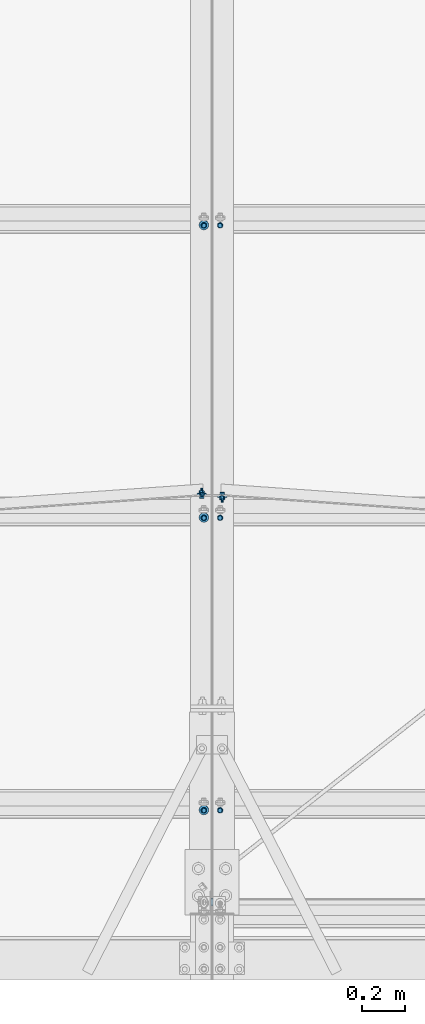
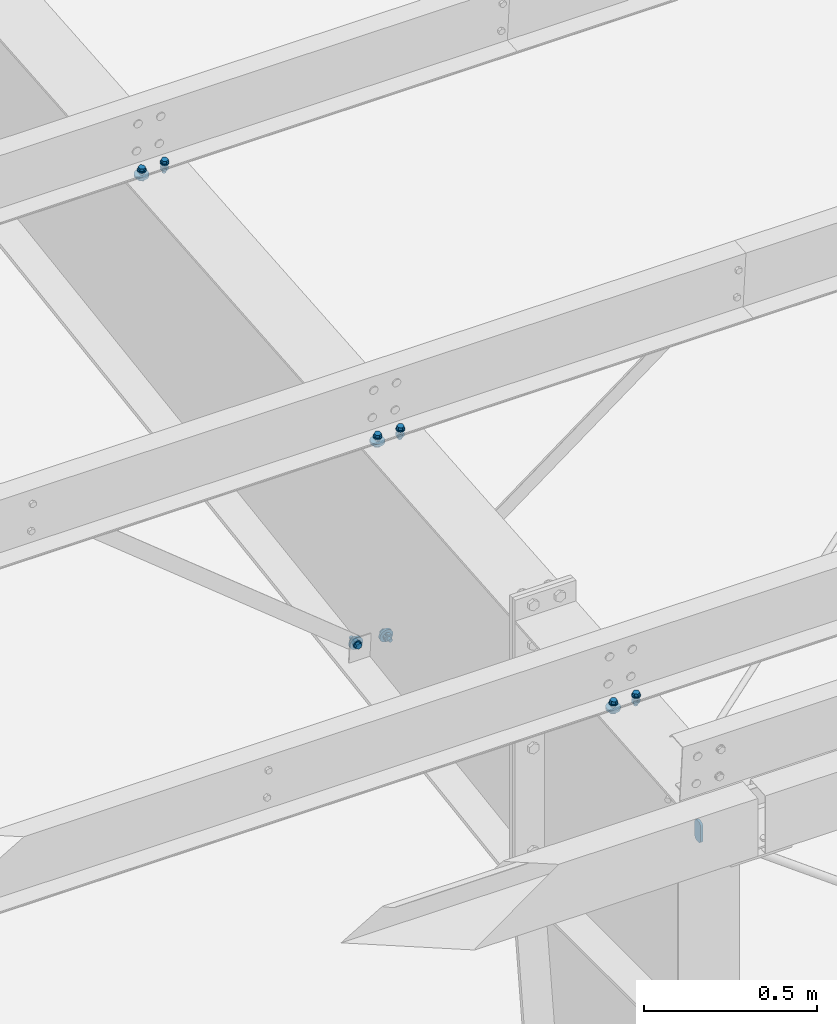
# One storey, part 122 of 185: 11 mechanical fasteners, 7 elements without a shape of their own.
"""IFC2X3 building model written with IfcOpenShell, lengths in millimetres."""

from ifc_helpers import new_model, si_unit, frame, frame_2d, origin_with_axes, origin_2d_with_axis, place, context, subcontext, project, spatial, polyline, circle_curve, parameter, trimmed, segment, composite_curve, circle, outline, extrude, source, transform, mapped, material, type_object, element, aggregate, save


model = new_model("IFC2X3")

# Units and contexts
model_context = context("Model", 3, precision=1e-05, world=origin_with_axes())
body_context = subcontext(model_context, "Body", "Model", "MODEL_VIEW")
ifc_project = project(units=[si_unit("LENGTHUNIT", "METRE", prefix="MILLI"), si_unit("AREAUNIT", "SQUARE_METRE"), si_unit("VOLUMEUNIT", "CUBIC_METRE"), si_unit("MASSUNIT", "GRAM", prefix="KILO"), si_unit("TIMEUNIT", "SECOND"), si_unit("PLANEANGLEUNIT", "RADIAN"), si_unit("SOLIDANGLEUNIT", "STERADIAN"), si_unit("THERMODYNAMICTEMPERATUREUNIT", "DEGREE_CELSIUS"), si_unit("LUMINOUSINTENSITYUNIT", "LUMEN")], contexts=[model_context])

# Site, building, storey
site_placement = place(None, origin_with_axes())
site = spatial("IfcSite", under=ifc_project, at=site_placement, Name="Undefined", CompositionType="ELEMENT")
building_placement = place(site_placement, origin_with_axes())
building = spatial("IfcBuilding", under=site, at=building_placement, Name="Undefined", CompositionType="ELEMENT")
storey_placement = place(building_placement, origin_with_axes())
storey = spatial("IfcBuildingStorey", under=building, at=storey_placement, Name="Undefined", CompositionType="ELEMENT", Elevation=0.0)

# Assembly, mechanical fastener
assembly_1_placement = place(storey_placement, origin_with_axes())
assembly_1 = element("IfcElementAssembly", 1, at=assembly_1_placement, inside=storey, Name="Steel Assembly", AssemblyPlace="NOTDEFINED", PredefinedType="RIGID_FRAME")
ifc_material_1 = material(Name="Undefined")
discrete_accessory_type = type_object("IfcDiscreteAccessoryType", Name="Bolt assembly")
shared_shape_1 = source(origin_with_axes(), body_context, "Body", "SweptSolid", [
    extrude(circle(Radius=7.14374971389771, at=origin_2d_with_axis()), frame((0.0, -1.59000001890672, 0.0), z_axis=(0.0, 1.0, 0.0), x_axis=(1.0, 0.0, 0.0)), (0.0, 0.0, 1.0), 1.7),
    extrude(outline(polyline([(10.9985221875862, 0.0), (5.4992610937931, 9.52499961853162), (-5.4992610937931, 9.52499961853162), (-10.9985221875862, 0.0), (-5.4992610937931, -9.52499961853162), (5.4992610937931, -9.52499961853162), (10.9985221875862, 0.0)])), frame((0.0, -15.0837496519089, 0.0), z_axis=(0.0, 1.0, 0.0), x_axis=(1.0, 0.0, 0.0)), (0.0, 0.0, 1.0), 9.5),
    extrude(circle(Radius=6.34999990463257, at=origin_2d_with_axis()), frame((0.0, -5.5587500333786, 0.0), z_axis=(0.0, 1.0, 0.0), x_axis=(1.0, 0.0, 0.0)), (0.0, 0.0, 1.0), 38.1),
    extrude(circle(Radius=13.4937496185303, at=origin_2d_with_axis()), frame((0.0, -5.5587500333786, 0.0), z_axis=(0.0, 1.0, 0.0), x_axis=(1.0, 0.0, 0.0)), (0.0, 0.0, 1.0), 4.0),
    extrude(circle(Radius=22.2250003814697, at=origin_2d_with_axis()), frame((0.0, 0.0, 0.0), z_axis=(0.0, 1.0, 0.0), x_axis=(1.0, 0.0, 0.0)), (0.0, 0.0, 1.0), 7.9),
    extrude(outline(polyline([(12.8316099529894, 0.0), (6.4158049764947, 11.1125001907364), (-6.4158049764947, 11.1125001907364), (-12.8316099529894, 0.0), (-6.4158049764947, -11.1125001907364), (6.4158049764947, -11.1125001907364), (12.8316099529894, 0.0)])), frame((0.0, 7.93750000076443, 0.0), z_axis=(0.0, 1.0, 0.0), x_axis=(1.0, 0.0, 0.0)), (0.0, 0.0, 1.0), 12.3),
])
mechanical_fastener_1_placement = place(assembly_1_placement, frame((7286.59838849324, 2264.37498076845, 5283.35510462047), z_axis=(0.641182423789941, 0.0637281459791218, -0.764737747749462), x_axis=(0.767388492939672, -0.053247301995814, 0.638967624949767)))
mechanical_fastener_1 = element("IfcMechanicalFastener", 2, at=mechanical_fastener_1_placement, type_object=discrete_accessory_type, material=ifc_material_1, Name="Bolt assembly", NominalDiameter=12.6999998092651, NominalLength=38.0999984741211, context=body_context, shape_type="MappedRepresentation", body=[
    mapped(shared_shape_1, transform((0.0, 0.0, 0.0))),
])
aggregate(assembly_1, [mechanical_fastener_1])

assembly_2_placement = place(storey_placement, origin_with_axes())
assembly_2 = element("IfcElementAssembly", 3, at=assembly_2_placement, inside=storey, Name="Steel Assembly", AssemblyPlace="NOTDEFINED", PredefinedType="RIGID_FRAME")
shared_shape_2 = source(origin_with_axes(), body_context, "Body", "SweptSolid", [
    extrude(circle(Radius=7.14374971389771, at=origin_2d_with_axis()), frame((0.0, 0.0, 0.0), z_axis=(0.0, 1.0, 0.0), x_axis=(1.0, 0.0, 0.0)), (0.0, 0.0, 1.0), 1.7),
    extrude(outline(polyline([(10.9985221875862, 0.0), (5.4992610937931, 9.52499961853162), (-5.4992610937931, 9.52499961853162), (-10.9985221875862, 0.0), (-5.4992610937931, -9.52499961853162), (5.4992610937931, -9.52499961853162), (10.9985221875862, 0.0)])), frame((0.0, -13.4937496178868, 0.0), z_axis=(0.0, 1.0, 0.0), x_axis=(1.0, 0.0, 0.0)), (0.0, 0.0, 1.0), 9.5),
    extrude(circle(Radius=6.34999990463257, at=origin_2d_with_axis()), frame((0.0, -3.96874999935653, 0.0), z_axis=(0.0, 1.0, 0.0), x_axis=(1.0, 0.0, 0.0)), (0.0, 0.0, 1.0), 38.1),
    extrude(circle(Radius=13.4937496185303, at=origin_2d_with_axis()), frame((0.0, -3.96874999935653, 0.0), z_axis=(0.0, 1.0, 0.0), x_axis=(1.0, 0.0, 0.0)), (0.0, 0.0, 1.0), 4.0),
    extrude(circle(Radius=22.2250003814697, at=origin_2d_with_axis()), frame((0.0, 1.5900000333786, 0.0), z_axis=(0.0, 1.0, 0.0), x_axis=(1.0, 0.0, 0.0)), (0.0, 0.0, 1.0), 7.9),
    extrude(outline(polyline([(12.8316099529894, 0.0), (6.4158049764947, 11.1125001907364), (-6.4158049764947, 11.1125001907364), (-12.8316099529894, 0.0), (-6.4158049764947, -11.1125001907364), (6.4158049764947, -11.1125001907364), (12.8316099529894, 0.0)])), frame((0.0, 9.5275000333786, 0.0), z_axis=(0.0, 1.0, 0.0), x_axis=(1.0, 0.0, 0.0)), (0.0, 0.0, 1.0), 12.3),
])
mechanical_fastener_2_placement = place(assembly_2_placement, frame((7191.40161150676, 2264.37498076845, 5283.35510462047), z_axis=(-0.641182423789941, 0.0637281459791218, -0.764737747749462), x_axis=(-0.767388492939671, -0.0532473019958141, 0.638967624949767)))
mechanical_fastener_2 = element("IfcMechanicalFastener", 4, at=mechanical_fastener_2_placement, type_object=discrete_accessory_type, material=ifc_material_1, Name="Bolt assembly", NominalDiameter=12.6999998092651, NominalLength=38.0999984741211, context=body_context, shape_type="MappedRepresentation", body=[
    mapped(shared_shape_2, transform((0.0, 0.0, 0.0))),
])
aggregate(assembly_2, [mechanical_fastener_2])

# Assembly, mechanical fasteners
assembly_3_placement = place(storey_placement, origin_with_axes())
assembly_3 = element("IfcElementAssembly", 5, at=assembly_3_placement, inside=storey, Name="Steel Assembly", AssemblyPlace="NOTDEFINED", PredefinedType="RIGID_FRAME")
ifc_material_2 = material(Name="7990")
shared_shape_3 = source(origin_with_axes(), body_context, "Body", "SweptSolid", [
    extrude(circle(Radius=7.14374971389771, at=origin_2d_with_axis()), frame((0.0, -3.41600000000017, 0.0), z_axis=(0.0, 1.0, 0.0), x_axis=(1.0, 0.0, 0.0)), (0.0, 0.0, 1.0), 3.5),
    extrude(circle(Radius=11.4299998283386, at=origin_2d_with_axis()), frame((0.0, 0.0, 0.0), z_axis=(0.0, 1.0, 0.0), x_axis=(1.0, 0.0, 0.0)), (0.0, 0.0, 1.0), 4.2),
    extrude(outline(polyline([(12.171698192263, 0.0), (6.08584909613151, 10.5409998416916), (-6.08584909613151, 10.5409998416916), (-12.171698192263, 0.0), (-6.08584909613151, -10.5409998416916), (6.08584909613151, -10.5409998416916), (12.171698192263, 0.0)])), frame((0.0, 4.1909999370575, 0.0), z_axis=(0.0, 1.0, 0.0), x_axis=(1.0, 0.0, 0.0)), (0.0, 0.0, 1.0), 8.4),
])
mechanical_fastener_3_placement = place(assembly_3_placement, frame((7192.169, 2264.4282280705, 5282.71613699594), z_axis=(0.921635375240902, 0.0322263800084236, -0.386716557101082), x_axis=(-0.388056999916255, 0.0765376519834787, -0.9184518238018)))
mechanical_fastener_3 = element("IfcMechanicalFastener", 6, at=mechanical_fastener_3_placement, type_object=discrete_accessory_type, material=ifc_material_2, Name="Bolt assembly", NominalDiameter=12.6999998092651, NominalLength=38.0999984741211, context=body_context, shape_type="MappedRepresentation", body=[
    mapped(shared_shape_3, transform((0.0, 0.0, 0.0))),
])
shared_shape_4 = source(origin_with_axes(), body_context, "Body", "SweptSolid", [
    extrude(circle(Radius=7.14374971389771, at=origin_2d_with_axis()), frame((0.0, 0.0, 0.0), z_axis=(0.0, 1.0, 0.0), x_axis=(1.0, 0.0, 0.0)), (0.0, 0.0, 1.0), 3.5),
    extrude(circle(Radius=11.4299998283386, at=origin_2d_with_axis()), frame((0.0, 3.41600000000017, 0.0), z_axis=(0.0, 1.0, 0.0), x_axis=(1.0, 0.0, 0.0)), (0.0, 0.0, 1.0), 4.2),
    extrude(outline(polyline([(12.171698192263, 0.0), (6.08584909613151, 10.5409998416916), (-6.08584909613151, 10.5409998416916), (-12.171698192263, 0.0), (-6.08584909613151, -10.5409998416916), (6.08584909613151, -10.5409998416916), (12.171698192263, 0.0)])), frame((0.0, 7.60699993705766, 0.0), z_axis=(0.0, 1.0, 0.0), x_axis=(1.0, 0.0, 0.0)), (0.0, 0.0, 1.0), 8.4),
])
mechanical_fastener_4_placement = place(assembly_3_placement, frame((7285.831, 2264.4282280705, 5282.71613699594), z_axis=(-0.921635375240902, 0.0322263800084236, -0.386716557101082), x_axis=(0.388056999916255, 0.0765376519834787, -0.9184518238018)))
mechanical_fastener_4 = element("IfcMechanicalFastener", 7, at=mechanical_fastener_4_placement, type_object=discrete_accessory_type, material=ifc_material_2, Name="Bolt assembly", NominalDiameter=12.6999998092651, NominalLength=38.0999984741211, context=body_context, shape_type="MappedRepresentation", body=[
    mapped(shared_shape_4, transform((0.0, 0.0, 0.0))),
])
aggregate(assembly_3, [mechanical_fastener_4, mechanical_fastener_3])

# Assembly, mechanical fastener
assembly_4_placement = place(storey_placement, origin_with_axes())
assembly_4 = element("IfcElementAssembly", 8, at=assembly_4_placement, inside=storey, Name="Steel Assembly", AssemblyPlace="NOTDEFINED", PredefinedType="RIGID_FRAME")
shared_shape_5 = source(origin_with_axes(), body_context, "Body", "SweptSolid", [
    extrude(outline(composite_curve([segment(polyline([(-23.8125, 17.4624996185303), (23.8125, 17.4624996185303)]), True, "CONTINUOUS"), segment(trimmed(circle_curve(frame_2d((23.8125, 4.76249980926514), x_axis=(0.0, 1.0)), 12.7), [parameter(0.0)], [parameter(4.71238898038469)], False, "PARAMETER"), True, "CONTINUOUS"), segment(polyline([(36.5124998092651, 4.76249980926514), (36.5124998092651, -4.76249980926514)]), True, "CONTINUOUS"), segment(trimmed(circle_curve(frame_2d((23.8125, -4.76249980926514), x_axis=(1.0, 0.0)), 12.7), [parameter(0.0)], [parameter(4.71238898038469)], False, "PARAMETER"), True, "CONTINUOUS"), segment(polyline([(23.8125, -17.4624996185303), (-23.8125, -17.4624996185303)]), True, "CONTINUOUS"), segment(trimmed(circle_curve(frame_2d((-23.8125, -4.76249980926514), x_axis=(0.0, -1.0)), 12.7), [parameter(0.0)], [parameter(4.71238898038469)], False, "PARAMETER"), True, "CONTINUOUS"), segment(polyline([(-36.5124998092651, -4.76249980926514), (-36.5124998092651, 4.76249980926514)]), True, "CONTINUOUS"), segment(trimmed(circle_curve(frame_2d((-23.8125, 4.76249980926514), x_axis=(-1.0, 0.0)), 12.7), [parameter(0.0)], [parameter(4.71238898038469)], False, "PARAMETER"), True, "DISCONTINUOUS")], self_intersect=False)), frame((0.0, -3.96874999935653, 0.0), z_axis=(0.0, 1.0, 0.0), x_axis=(1.0, 0.0, 0.0)), (0.0, 0.0, 1.0), 8.0),
])
mechanical_fastener_5_placement = place(assembly_4_placement, frame((7239.0, 363.47399999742, 5757.77406710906), z_axis=(0.0, 1.0, 0.0), x_axis=(0.0, 0.0, -1.0)))
mechanical_fastener_5 = element("IfcMechanicalFastener", 9, at=mechanical_fastener_5_placement, type_object=discrete_accessory_type, material=ifc_material_1, Name="Bolt assembly", NominalDiameter=25.3999996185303, NominalLength=31.75, context=body_context, shape_type="MappedRepresentation", body=[
    mapped(shared_shape_5, transform((0.0, 0.0, 0.0))),
])
aggregate(assembly_4, [mechanical_fastener_5])

# Assembly, mechanical fasteners
assembly_5_placement = place(storey_placement, origin_with_axes())
assembly_5 = element("IfcElementAssembly", 10, at=assembly_5_placement, inside=storey, Name="Steel Assembly", AssemblyPlace="NOTDEFINED", PredefinedType="RIGID_FRAME")
shared_shape_6 = source(origin_with_axes(), body_context, "Body", "SweptSolid", [
    extrude(circle(Radius=7.14374971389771, at=origin_2d_with_axis()), frame((0.0, -0.1, 0.0), z_axis=(0.0, 1.0, 0.0), x_axis=(1.0, 0.0, 0.0)), (0.0, 0.0, 1.0), 8.1),
    extrude(circle(Radius=7.14374971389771, at=origin_2d_with_axis()), frame((0.0, -3.08000006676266, 0.0), z_axis=(0.0, 1.0, 0.0), x_axis=(1.0, 0.0, 0.0)), (0.0, 0.0, 1.0), 3.2),
    extrude(circle(Radius=7.14374971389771, at=origin_2d_with_axis()), frame((0.0, -3.08000006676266, 0.0), z_axis=(0.0, 1.0, 0.0), x_axis=(1.0, 0.0, 0.0)), (0.0, 0.0, 1.0), 3.2),
    extrude(outline(polyline([(10.9985221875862, 0.0), (5.4992610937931, 9.52499961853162), (-5.4992610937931, 9.52499961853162), (-10.9985221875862, 0.0), (-5.4992610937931, -9.52499961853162), (5.4992610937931, -9.52499961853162), (10.9985221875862, 0.0)])), frame((0.0, -16.6737496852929, 0.0), z_axis=(0.0, 1.0, 0.0), x_axis=(1.0, 0.0, 0.0)), (0.0, 0.0, 1.0), 9.5),
    extrude(circle(Radius=6.34999990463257, at=origin_2d_with_axis()), frame((0.0, -7.14875006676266, 0.0), z_axis=(0.0, 1.0, 0.0), x_axis=(1.0, 0.0, 0.0)), (0.0, 0.0, 1.0), 38.1),
    extrude(circle(Radius=13.4937496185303, at=origin_2d_with_axis()), frame((0.0, -7.14875006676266, 0.0), z_axis=(0.0, 1.0, 0.0), x_axis=(1.0, 0.0, 0.0)), (0.0, 0.0, 1.0), 4.0),
    extrude(circle(Radius=22.2250003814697, at=origin_2d_with_axis()), frame((0.0, 7.95019856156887, 0.0), z_axis=(0.0, 1.0, 0.0), x_axis=(1.0, 0.0, 0.0)), (0.0, 0.0, 1.0), 7.9),
    extrude(outline(polyline([(12.8316099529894, 0.0), (6.4158049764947, 11.1125001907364), (-6.4158049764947, 11.1125001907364), (-12.8316099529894, 0.0), (-6.4158049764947, -11.1125001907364), (6.4158049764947, -11.1125001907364), (12.8316099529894, 0.0)])), frame((0.0, 15.8876985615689, 0.0), z_axis=(0.0, 1.0, 0.0), x_axis=(1.0, 0.0, 0.0)), (0.0, 0.0, 1.0), 12.3),
])
mechanical_fastener_6_placement = place(assembly_5_placement, frame((7200.9, 793.549517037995, 5958.22479168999), z_axis=(1.0, 0.0, 0.0), x_axis=(0.0, -0.996545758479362, -0.0830454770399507)))
mechanical_fastener_6 = element("IfcMechanicalFastener", 11, at=mechanical_fastener_6_placement, type_object=discrete_accessory_type, material=ifc_material_1, Name="Bolt assembly", NominalDiameter=12.6999998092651, NominalLength=38.0999984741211, context=body_context, shape_type="MappedRepresentation", body=[
    mapped(shared_shape_6, transform((0.0, 0.0, 0.0))),
])
shared_shape_7 = source(origin_with_axes(), body_context, "Body", "SweptSolid", [
    extrude(circle(Radius=7.14374971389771, at=origin_2d_with_axis()), frame((0.0, -0.1, 0.0), z_axis=(0.0, 1.0, 0.0), x_axis=(1.0, 0.0, 0.0)), (0.0, 0.0, 1.0), 8.1),
    extrude(circle(Radius=7.14374971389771, at=origin_2d_with_axis()), frame((0.0, -3.08000006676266, 0.0), z_axis=(0.0, 1.0, 0.0), x_axis=(1.0, 0.0, 0.0)), (0.0, 0.0, 1.0), 3.2),
    extrude(circle(Radius=7.14374971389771, at=origin_2d_with_axis()), frame((0.0, -3.08000006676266, 0.0), z_axis=(0.0, 1.0, 0.0), x_axis=(1.0, 0.0, 0.0)), (0.0, 0.0, 1.0), 3.2),
    extrude(outline(polyline([(10.9985221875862, 0.0), (5.4992610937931, 9.52499961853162), (-5.4992610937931, 9.52499961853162), (-10.9985221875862, 0.0), (-5.4992610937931, -9.52499961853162), (5.4992610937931, -9.52499961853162), (10.9985221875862, 0.0)])), frame((0.0, -16.6737496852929, 0.0), z_axis=(0.0, 1.0, 0.0), x_axis=(1.0, 0.0, 0.0)), (0.0, 0.0, 1.0), 9.5),
    extrude(circle(Radius=6.34999990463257, at=origin_2d_with_axis()), frame((0.0, -7.14875006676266, 0.0), z_axis=(0.0, 1.0, 0.0), x_axis=(1.0, 0.0, 0.0)), (0.0, 0.0, 1.0), 38.1),
    extrude(circle(Radius=13.4937496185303, at=origin_2d_with_axis()), frame((0.0, -7.14875006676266, 0.0), z_axis=(0.0, 1.0, 0.0), x_axis=(1.0, 0.0, 0.0)), (0.0, 0.0, 1.0), 4.0),
    extrude(outline(polyline([(12.8316099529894, 0.0), (6.4158049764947, 11.1125001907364), (-6.4158049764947, 11.1125001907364), (-12.8316099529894, 0.0), (-6.4158049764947, -11.1125001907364), (6.4158049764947, -11.1125001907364), (12.8316099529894, 0.0)])), frame((0.0, 7.95019856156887, 0.0), z_axis=(0.0, 1.0, 0.0), x_axis=(1.0, 0.0, 0.0)), (0.0, 0.0, 1.0), 12.3),
])
mechanical_fastener_7_placement = place(assembly_5_placement, frame((7277.1, 793.549517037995, 5958.22479168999), z_axis=(1.0, 0.0, 0.0), x_axis=(0.0, -0.996545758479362, -0.0830454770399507)))
mechanical_fastener_7 = element("IfcMechanicalFastener", 12, at=mechanical_fastener_7_placement, type_object=discrete_accessory_type, material=ifc_material_1, Name="Bolt assembly", NominalDiameter=12.6999998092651, NominalLength=38.0999984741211, context=body_context, shape_type="MappedRepresentation", body=[
    mapped(shared_shape_7, transform((0.0, 0.0, 0.0))),
])
aggregate(assembly_5, [mechanical_fastener_6, mechanical_fastener_7])

assembly_6_placement = place(storey_placement, origin_with_axes())
assembly_6 = element("IfcElementAssembly", 13, at=assembly_6_placement, inside=storey, Name="Steel Assembly", AssemblyPlace="NOTDEFINED", PredefinedType="RIGID_FRAME")
shared_shape_8 = source(origin_with_axes(), body_context, "Body", "SweptSolid", [
    extrude(circle(Radius=7.14374971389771, at=origin_2d_with_axis()), frame((0.0, -0.0897199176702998, 0.0), z_axis=(0.0, 1.0, 0.0), x_axis=(1.0, 0.0, 0.0)), (0.0, 0.0, 1.0), 8.0),
    extrude(circle(Radius=7.14374971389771, at=origin_2d_with_axis()), frame((0.0, -3.08000006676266, 0.0), z_axis=(0.0, 1.0, 0.0), x_axis=(1.0, 0.0, 0.0)), (0.0, 0.0, 1.0), 3.2),
    extrude(circle(Radius=7.14374971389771, at=origin_2d_with_axis()), frame((0.0, -3.08000006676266, 0.0), z_axis=(0.0, 1.0, 0.0), x_axis=(1.0, 0.0, 0.0)), (0.0, 0.0, 1.0), 3.2),
    extrude(outline(polyline([(10.9985221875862, 0.0), (5.4992610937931, 9.52499961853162), (-5.4992610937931, 9.52499961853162), (-10.9985221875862, 0.0), (-5.4992610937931, -9.52499961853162), (5.4992610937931, -9.52499961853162), (10.9985221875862, 0.0)])), frame((0.0, -16.6737496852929, 0.0), z_axis=(0.0, 1.0, 0.0), x_axis=(1.0, 0.0, 0.0)), (0.0, 0.0, 1.0), 9.5),
    extrude(circle(Radius=6.34999990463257, at=origin_2d_with_axis()), frame((0.0, -7.14875006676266, 0.0), z_axis=(0.0, 1.0, 0.0), x_axis=(1.0, 0.0, 0.0)), (0.0, 0.0, 1.0), 38.1),
    extrude(circle(Radius=13.4937496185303, at=origin_2d_with_axis()), frame((0.0, -7.14875006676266, 0.0), z_axis=(0.0, 1.0, 0.0), x_axis=(1.0, 0.0, 0.0)), (0.0, 0.0, 1.0), 4.0),
    extrude(circle(Radius=22.2250003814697, at=origin_2d_with_axis()), frame((0.0, 7.88428008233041, 0.0), z_axis=(0.0, 1.0, 0.0), x_axis=(1.0, 0.0, 0.0)), (0.0, 0.0, 1.0), 7.9),
    extrude(outline(polyline([(12.8316099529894, 0.0), (6.4158049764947, 11.1125001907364), (-6.4158049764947, 11.1125001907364), (-12.8316099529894, 0.0), (-6.4158049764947, -11.1125001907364), (6.4158049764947, -11.1125001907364), (12.8316099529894, 0.0)])), frame((0.0, 15.8217800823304, 0.0), z_axis=(0.0, 1.0, 0.0), x_axis=(1.0, 0.0, 0.0)), (0.0, 0.0, 1.0), 12.3),
])
mechanical_fastener_8_placement = place(assembly_6_placement, frame((7200.9, 2160.41167902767, 6072.12997208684), z_axis=(1.0, 0.0, 0.0), x_axis=(0.0, -0.996545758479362, -0.0830454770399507)))
mechanical_fastener_8 = element("IfcMechanicalFastener", 14, at=mechanical_fastener_8_placement, type_object=discrete_accessory_type, material=ifc_material_1, Name="Bolt assembly", NominalDiameter=12.6999998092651, NominalLength=38.0999984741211, context=body_context, shape_type="MappedRepresentation", body=[
    mapped(shared_shape_8, transform((0.0, 0.0, 0.0))),
])
shared_shape_9 = source(origin_with_axes(), body_context, "Body", "SweptSolid", [
    extrude(circle(Radius=7.14374971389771, at=origin_2d_with_axis()), frame((0.0, -0.0897199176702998, 0.0), z_axis=(0.0, 1.0, 0.0), x_axis=(1.0, 0.0, 0.0)), (0.0, 0.0, 1.0), 8.0),
    extrude(circle(Radius=7.14374971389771, at=origin_2d_with_axis()), frame((0.0, -3.08000006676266, 0.0), z_axis=(0.0, 1.0, 0.0), x_axis=(1.0, 0.0, 0.0)), (0.0, 0.0, 1.0), 3.2),
    extrude(circle(Radius=7.14374971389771, at=origin_2d_with_axis()), frame((0.0, -3.08000006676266, 0.0), z_axis=(0.0, 1.0, 0.0), x_axis=(1.0, 0.0, 0.0)), (0.0, 0.0, 1.0), 3.2),
    extrude(outline(polyline([(10.9985221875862, 0.0), (5.4992610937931, 9.52499961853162), (-5.4992610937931, 9.52499961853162), (-10.9985221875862, 0.0), (-5.4992610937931, -9.52499961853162), (5.4992610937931, -9.52499961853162), (10.9985221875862, 0.0)])), frame((0.0, -16.6737496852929, 0.0), z_axis=(0.0, 1.0, 0.0), x_axis=(1.0, 0.0, 0.0)), (0.0, 0.0, 1.0), 9.5),
    extrude(circle(Radius=6.34999990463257, at=origin_2d_with_axis()), frame((0.0, -7.14875006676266, 0.0), z_axis=(0.0, 1.0, 0.0), x_axis=(1.0, 0.0, 0.0)), (0.0, 0.0, 1.0), 38.1),
    extrude(circle(Radius=13.4937496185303, at=origin_2d_with_axis()), frame((0.0, -7.14875006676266, 0.0), z_axis=(0.0, 1.0, 0.0), x_axis=(1.0, 0.0, 0.0)), (0.0, 0.0, 1.0), 4.0),
    extrude(outline(polyline([(12.8316099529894, 0.0), (6.4158049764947, 11.1125001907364), (-6.4158049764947, 11.1125001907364), (-12.8316099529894, 0.0), (-6.4158049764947, -11.1125001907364), (6.4158049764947, -11.1125001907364), (12.8316099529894, 0.0)])), frame((0.0, 7.88428008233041, 0.0), z_axis=(0.0, 1.0, 0.0), x_axis=(1.0, 0.0, 0.0)), (0.0, 0.0, 1.0), 12.3),
])
mechanical_fastener_9_placement = place(assembly_6_placement, frame((7277.1, 2160.41167902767, 6072.12997208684), z_axis=(1.0, 0.0, 0.0), x_axis=(0.0, -0.996545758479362, -0.0830454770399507)))
mechanical_fastener_9 = element("IfcMechanicalFastener", 15, at=mechanical_fastener_9_placement, type_object=discrete_accessory_type, material=ifc_material_1, Name="Bolt assembly", NominalDiameter=12.6999998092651, NominalLength=38.0999984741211, context=body_context, shape_type="MappedRepresentation", body=[
    mapped(shared_shape_9, transform((0.0, 0.0, 0.0))),
])
aggregate(assembly_6, [mechanical_fastener_8, mechanical_fastener_9])

assembly_7_placement = place(storey_placement, origin_with_axes())
assembly_7 = element("IfcElementAssembly", 16, at=assembly_7_placement, inside=storey, Name="Steel Assembly", AssemblyPlace="NOTDEFINED", PredefinedType="RIGID_FRAME")
shared_shape_10 = source(origin_with_axes(), body_context, "Body", "SweptSolid", [
    extrude(circle(Radius=7.14374971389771, at=origin_2d_with_axis()), frame((0.0, -0.0897199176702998, 0.0), z_axis=(0.0, 1.0, 0.0), x_axis=(1.0, 0.0, 0.0)), (0.0, 0.0, 1.0), 8.0),
    extrude(circle(Radius=7.14374971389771, at=origin_2d_with_axis()), frame((0.0, -3.18000030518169, 0.0), z_axis=(0.0, 1.0, 0.0), x_axis=(1.0, 0.0, 0.0)), (0.0, 0.0, 1.0), 3.2),
    extrude(circle(Radius=7.14374971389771, at=origin_2d_with_axis()), frame((0.0, -3.08000006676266, 0.0), z_axis=(0.0, 1.0, 0.0), x_axis=(1.0, 0.0, 0.0)), (0.0, 0.0, 1.0), 3.2),
    extrude(outline(polyline([(10.9985221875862, 0.0), (5.4992610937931, 9.52499961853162), (-5.4992610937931, 9.52499961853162), (-10.9985221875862, 0.0), (-5.4992610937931, -9.52499961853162), (5.4992610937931, -9.52499961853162), (10.9985221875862, 0.0)])), frame((0.0, -16.6737496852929, 0.0), z_axis=(0.0, 1.0, 0.0), x_axis=(1.0, 0.0, 0.0)), (0.0, 0.0, 1.0), 9.5),
    extrude(circle(Radius=6.34999990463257, at=origin_2d_with_axis()), frame((0.0, -7.14875006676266, 0.0), z_axis=(0.0, 1.0, 0.0), x_axis=(1.0, 0.0, 0.0)), (0.0, 0.0, 1.0), 38.1),
    extrude(circle(Radius=13.4937496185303, at=origin_2d_with_axis()), frame((0.0, -7.14875006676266, 0.0), z_axis=(0.0, 1.0, 0.0), x_axis=(1.0, 0.0, 0.0)), (0.0, 0.0, 1.0), 4.0),
    extrude(circle(Radius=22.2250003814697, at=origin_2d_with_axis()), frame((0.0, 7.88428008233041, 0.0), z_axis=(0.0, 1.0, 0.0), x_axis=(1.0, 0.0, 0.0)), (0.0, 0.0, 1.0), 7.9),
    extrude(outline(polyline([(12.8316099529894, 0.0), (6.4158049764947, 11.1125001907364), (-6.4158049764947, 11.1125001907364), (-12.8316099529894, 0.0), (-6.4158049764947, -11.1125001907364), (6.4158049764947, -11.1125001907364), (12.8316099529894, 0.0)])), frame((0.0, 15.8217800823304, 0.0), z_axis=(0.0, 1.0, 0.0), x_axis=(1.0, 0.0, 0.0)), (0.0, 0.0, 1.0), 12.3),
])
mechanical_fastener_10_placement = place(assembly_7_placement, frame((7200.9, 3527.27384101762, 6186.03515248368), z_axis=(1.0, 0.0, 0.0), x_axis=(0.0, -0.996545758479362, -0.0830454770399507)))
mechanical_fastener_10 = element("IfcMechanicalFastener", 17, at=mechanical_fastener_10_placement, type_object=discrete_accessory_type, material=ifc_material_1, Name="Bolt assembly", NominalDiameter=12.6999998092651, NominalLength=38.0999984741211, context=body_context, shape_type="MappedRepresentation", body=[
    mapped(shared_shape_10, transform((0.0, 0.0, 0.0))),
])
shared_shape_11 = source(origin_with_axes(), body_context, "Body", "SweptSolid", [
    extrude(circle(Radius=7.14374971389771, at=origin_2d_with_axis()), frame((0.0, -0.0897199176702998, 0.0), z_axis=(0.0, 1.0, 0.0), x_axis=(1.0, 0.0, 0.0)), (0.0, 0.0, 1.0), 8.0),
    extrude(circle(Radius=7.14374971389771, at=origin_2d_with_axis()), frame((0.0, -3.18000030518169, 0.0), z_axis=(0.0, 1.0, 0.0), x_axis=(1.0, 0.0, 0.0)), (0.0, 0.0, 1.0), 3.2),
    extrude(circle(Radius=7.14374971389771, at=origin_2d_with_axis()), frame((0.0, -3.08000006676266, 0.0), z_axis=(0.0, 1.0, 0.0), x_axis=(1.0, 0.0, 0.0)), (0.0, 0.0, 1.0), 3.2),
    extrude(outline(polyline([(10.9985221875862, 0.0), (5.4992610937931, 9.52499961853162), (-5.4992610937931, 9.52499961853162), (-10.9985221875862, 0.0), (-5.4992610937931, -9.52499961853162), (5.4992610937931, -9.52499961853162), (10.9985221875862, 0.0)])), frame((0.0, -16.6737496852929, 0.0), z_axis=(0.0, 1.0, 0.0), x_axis=(1.0, 0.0, 0.0)), (0.0, 0.0, 1.0), 9.5),
    extrude(circle(Radius=6.34999990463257, at=origin_2d_with_axis()), frame((0.0, -7.14875006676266, 0.0), z_axis=(0.0, 1.0, 0.0), x_axis=(1.0, 0.0, 0.0)), (0.0, 0.0, 1.0), 38.1),
    extrude(circle(Radius=13.4937496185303, at=origin_2d_with_axis()), frame((0.0, -7.14875006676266, 0.0), z_axis=(0.0, 1.0, 0.0), x_axis=(1.0, 0.0, 0.0)), (0.0, 0.0, 1.0), 4.0),
    extrude(outline(polyline([(12.8316099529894, 0.0), (6.4158049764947, 11.1125001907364), (-6.4158049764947, 11.1125001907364), (-12.8316099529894, 0.0), (-6.4158049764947, -11.1125001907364), (6.4158049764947, -11.1125001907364), (12.8316099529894, 0.0)])), frame((0.0, 7.88428008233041, 0.0), z_axis=(0.0, 1.0, 0.0), x_axis=(1.0, 0.0, 0.0)), (0.0, 0.0, 1.0), 12.3),
])
mechanical_fastener_11_placement = place(assembly_7_placement, frame((7277.1, 3527.27384101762, 6186.03515248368), z_axis=(1.0, 0.0, 0.0), x_axis=(0.0, -0.996545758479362, -0.0830454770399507)))
mechanical_fastener_11 = element("IfcMechanicalFastener", 18, at=mechanical_fastener_11_placement, type_object=discrete_accessory_type, material=ifc_material_1, Name="Bolt assembly", NominalDiameter=12.6999998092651, NominalLength=38.0999984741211, context=body_context, shape_type="MappedRepresentation", body=[
    mapped(shared_shape_11, transform((0.0, 0.0, 0.0))),
])
aggregate(assembly_7, [mechanical_fastener_10, mechanical_fastener_11])

save(model, "model.ifc")
